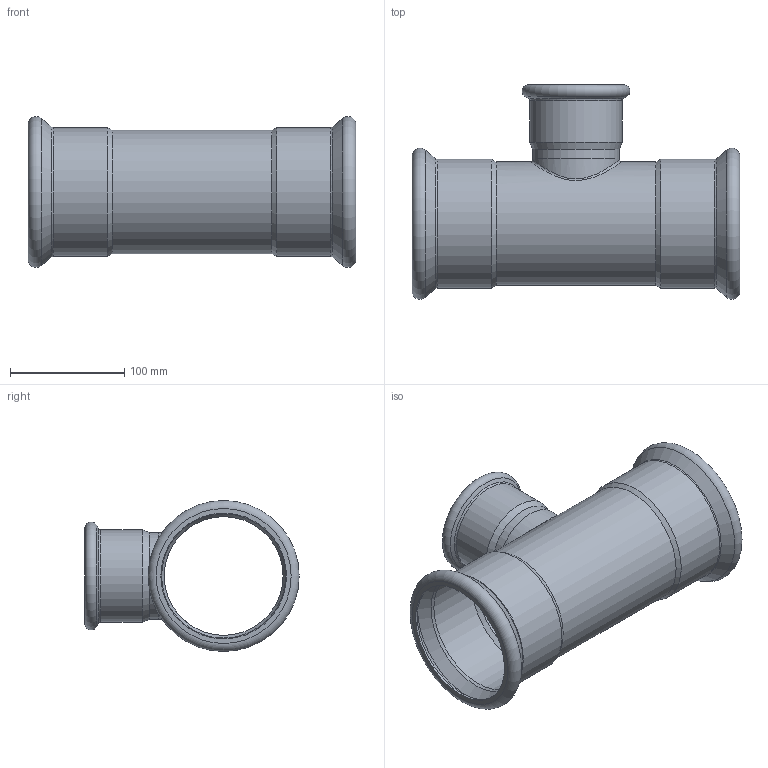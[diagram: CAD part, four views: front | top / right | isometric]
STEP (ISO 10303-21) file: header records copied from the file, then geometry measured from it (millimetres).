
FILE_DESCRIPTION((''),'2;1');
FILE_NAME('G:\Nirosan-Schmiedefeld\Technics\CAD\Bauteile VA\108\6913010876108(3).stp','2009-05-08T09:42:54',('herberg'),(''),'Autodesk Inventor 2009','Autodesk Inventor 2009','');
FILE_SCHEMA(('AUTOMOTIVE_DESIGN { 1 0 10303 214 1 1 1 1 }'));
Length unit declared in the file: millimetre
Products named in the file (3): 6913010876108(3); LM_6913010876108(0); HM_6924376(1)
Assembly tree (2 placements, depth 2):
  6913010876108(3)
    LM_6913010876108(0)
    HM_6924376(1)
Bounding box: 287 x 187.6 x 132.2 mm (x, y, z)
Volume: 246219.8 mm3; surface area: 249035.2 mm2
Topology: 2 solids, 2 shells, 49 faces, 99 edges, 57 vertices
Faces by surface type: cylinder 15, cone 12, bspline 8, plane 8, torus 6
Full cylindrical faces by diameter (mm): 72.1 x2, 76.1 x2, 76.6 x1, 78 x1, 80.6 x1, 104 x1, 108 x1, 108.7 x2, 110 x2, 112.7 x2
Entity records: 3453 total; most frequent: CARTESIAN_POINT 2547, DIRECTION 186, ORIENTED_EDGE 104, EDGE_LOOP 98, AXIS2_PLACEMENT_3D 93, EDGE_CURVE 52, VERTEX_POINT 50, FACE_OUTER_BOUND 49
